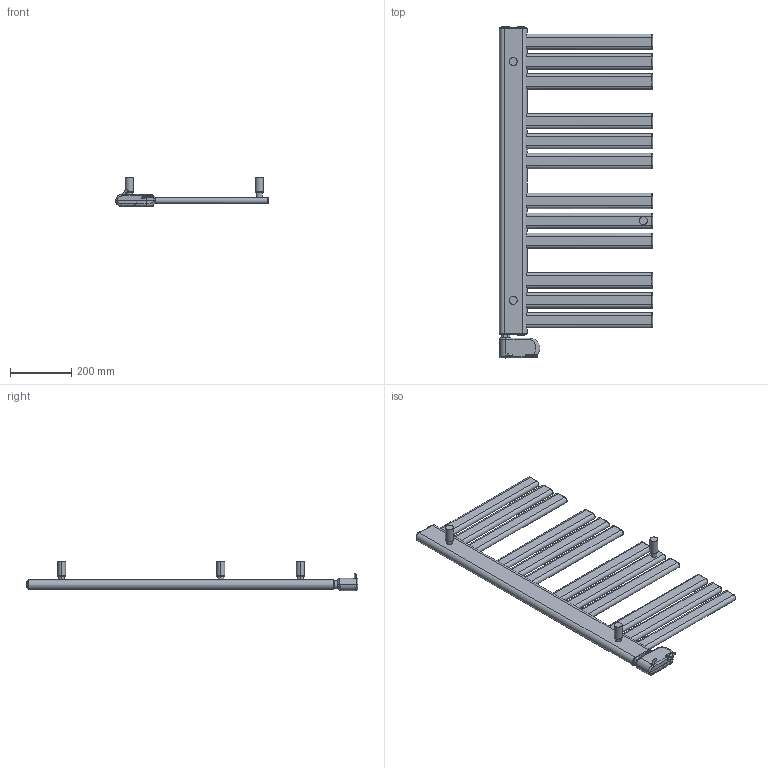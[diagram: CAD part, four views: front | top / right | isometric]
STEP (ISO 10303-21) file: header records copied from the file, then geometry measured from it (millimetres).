
FILE_DESCRIPTION((''),'2;1');
FILE_NAME('3581776100021_3D_SITO_ASM','2023-01-24T12:17:29',('PC132'),(''),'CREO PARAMETRIC BY PTC INC, 2022124','CREO PARAMETRIC BY PTC INC, 2022124','');
FILE_SCHEMA(('AUTOMOTIVE_DESIGN { 1 0 10303 214 1 1 1 1 }'));
Length unit declared in the file: millimetre
Products named in the file (6): 3581776100021_3D_SITO; 1010181240001; 1035270000037_FRONT; 1035270000037_BACK; 1035270000021_ASM; 3581776100021_3D_SITO_ASM
Assembly tree (7 placements, depth 3):
  3581776100021_3D_SITO_ASM
    3581776100021_3D_SITO
    1010181240001  x3
    1035270000021_ASM
      1035270000037_FRONT
      1035270000037_BACK
Bounding box: 500 x 1084.4 x 96 mm (x, y, z)
Volume: 7400796.1 mm3; surface area: 896310.7 mm2
Topology: 9 solids, 10 shells, 469 faces, 1118 edges, 703 vertices
Faces by surface type: cylinder 160, plane 153, torus 64, bspline 51, cone 24, sphere 17
Entity records: 31402 total; most frequent: CARTESIAN_POINT 15182, DIRECTION 2081, ORIENTED_EDGE 1812, PRESENTATION_STYLE_ASSIGNMENT 1006, STYLED_ITEM 1002, CURVE_STYLE 997, EDGE_CURVE 906, AXIS2_PLACEMENT_3D 827
